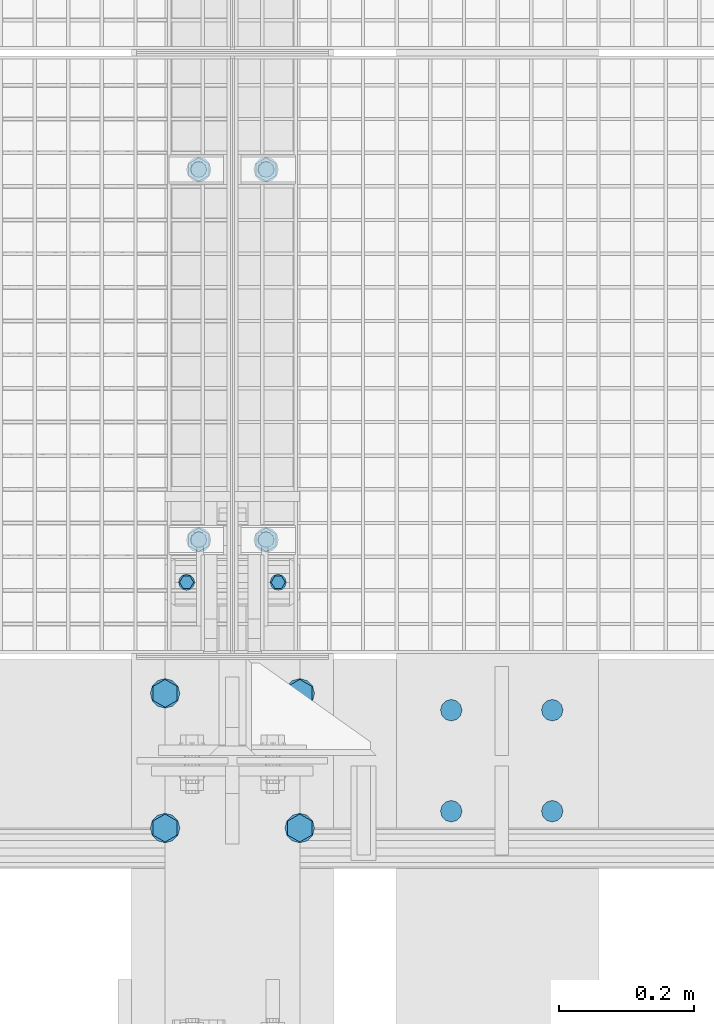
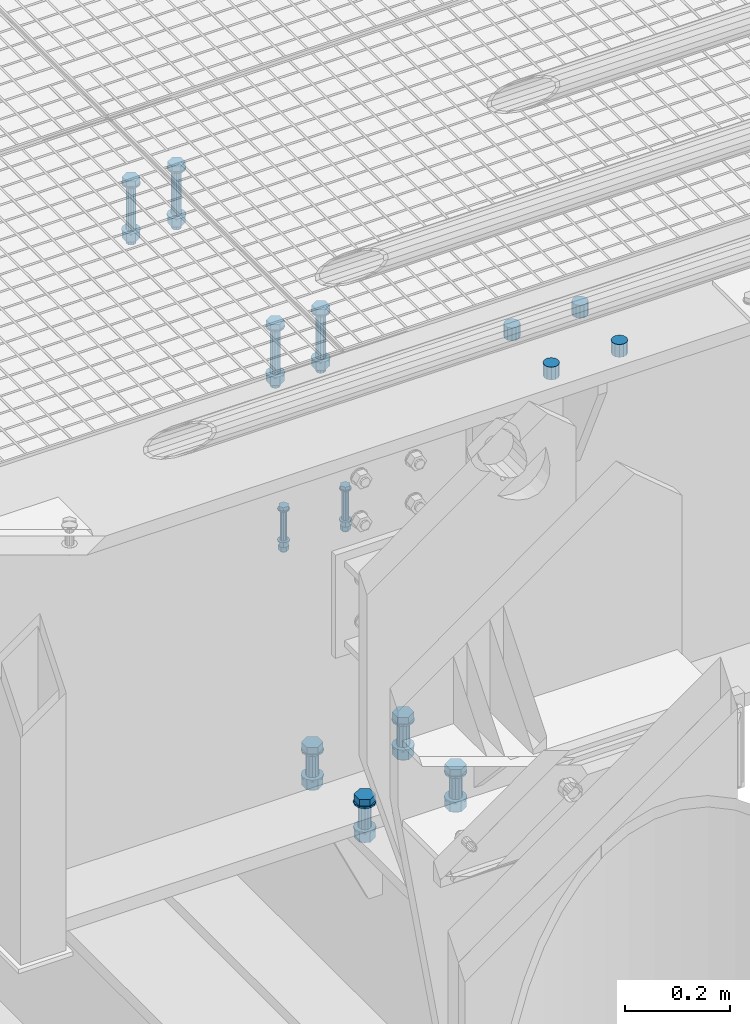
# One storey, part 22 of 1530: 5 mechanical fasteners.
"""IFC2X3 building model written with IfcOpenShell, lengths in millimetres."""

from ifc_helpers import new_model, si_unit, frame, origin_with_axes, place, context, subcontext, project, spatial, faceted_brep, source, transform, mapped, material, type_object, element, save


model = new_model("IFC2X3")

# Units and contexts
model_context = context("Model", 3, precision=1e-05, world=origin_with_axes())
body_context = subcontext(model_context, "Body", "Model", "MODEL_VIEW")
ifc_project = project(units=[si_unit("LENGTHUNIT", "METRE", prefix="MILLI"), si_unit("AREAUNIT", "SQUARE_METRE"), si_unit("VOLUMEUNIT", "CUBIC_METRE"), si_unit("MASSUNIT", "GRAM", prefix="KILO"), si_unit("TIMEUNIT", "SECOND"), si_unit("PLANEANGLEUNIT", "RADIAN"), si_unit("SOLIDANGLEUNIT", "STERADIAN"), si_unit("THERMODYNAMICTEMPERATUREUNIT", "DEGREE_CELSIUS"), si_unit("LUMINOUSINTENSITYUNIT", "LUMEN")], contexts=[model_context])

# Site, building, storey
site_placement = place(None, origin_with_axes())
site = spatial("IfcSite", under=ifc_project, at=site_placement, Name="Brattvåg", CompositionType="ELEMENT")
building_placement = place(site_placement, origin_with_axes())
building = spatial("IfcBuilding", under=site, at=building_placement, Name="Undefined", CompositionType="ELEMENT")
storey_placement = place(building_placement, origin_with_axes())
storey = spatial("IfcBuildingStorey", under=building, at=storey_placement, Name="Undefined", CompositionType="ELEMENT", Elevation=0.0)

# Mechanical fasteners
ifc_material = material(Name="8")
mechanical_fastener_type = type_object("IfcMechanicalFastenerType", Name="Bolt assembly")
shared_shape_1 = source(origin_with_axes(), body_context, "Body", "Brep", [
    faceted_brep([(10.3923048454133, -9.99999999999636, 0.0), (5.19615242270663, -9.99999999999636, 9.0), (-5.19615242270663, -9.99999999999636, 9.0), (-10.3923048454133, -9.99999999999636, 1.27269028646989e-15), (-5.19615242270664, -9.99999999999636, -9.0), (5.19615242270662, -9.99999999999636, -9.0), (5.19615242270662, -2.49999999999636, -9.0), (-5.19615242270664, -2.49999999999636, -9.0), (-10.3923048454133, -2.49999999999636, 1.27269028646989e-15), (-5.19615242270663, -2.49999999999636, 9.0), (5.19615242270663, -2.49999999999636, 9.0), (10.3923048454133, -2.49999999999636, 0.0), (6.0, -2.49999999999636, 0.0), (5.19615242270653, -2.49999999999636, 3.00000000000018), (2.99999999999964, -2.49999999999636, 5.19615242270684), (-6.21801588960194e-13, -2.49999999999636, 6.0), (-3.00000000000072, -2.49999999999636, 5.19615242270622), (-5.19615242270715, -2.49999999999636, 2.9999999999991), (-6.0, -2.49999999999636, -1.24360317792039e-12), (-5.19615242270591, -2.49999999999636, -3.00000000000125), (-2.99999999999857, -2.49999999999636, -5.19615242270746), (1.85874342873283e-12, -2.49999999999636, -6.0), (3.00000000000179, -2.49999999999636, -5.1961524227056), (5.19615242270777, -2.49999999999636, -2.99999999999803), (5.19615242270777, 97.4999999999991, -2.99999999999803), (3.00000000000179, 97.4999999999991, -5.1961524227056), (1.85874342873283e-12, 97.4999999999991, -6.0), (-2.99999999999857, 97.4999999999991, -5.19615242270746), (-5.19615242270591, 97.4999999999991, -3.00000000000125), (-6.0, 97.4999999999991, -1.24360317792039e-12), (-5.19615242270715, 97.4999999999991, 2.9999999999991), (-3.00000000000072, 97.4999999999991, 5.19615242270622), (-6.21801588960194e-13, 97.4999999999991, 6.0), (2.99999999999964, 97.4999999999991, 5.19615242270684), (5.19615242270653, 97.4999999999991, 3.00000000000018), (6.0, 97.4999999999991, 0.0), (12.0, -2.49999999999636, 0.0), (10.3923048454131, -2.49999999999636, 6.00000000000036), (5.99999999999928, -2.49999999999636, 10.3923048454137), (-1.24360317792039e-12, -2.49999999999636, 12.0), (-6.00000000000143, -2.49999999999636, 10.3923048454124), (-10.3923048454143, -2.49999999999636, 5.99999999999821), (-12.0, -2.49999999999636, -2.48720635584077e-12), (-10.3923048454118, -2.49999999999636, -6.00000000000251), (-5.99999999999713, -2.49999999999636, -10.3923048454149), (3.71748685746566e-12, -2.49999999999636, -12.0), (6.00000000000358, -2.49999999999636, -10.3923048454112), (10.3923048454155, -2.49999999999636, -5.99999999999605), (10.3923048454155, 3.63797880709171e-12, -5.99999999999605), (6.00000000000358, 3.63797880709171e-12, -10.3923048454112), (3.71748685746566e-12, 3.63797880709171e-12, -12.0), (-5.99999999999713, 3.63797880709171e-12, -10.3923048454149), (-10.3923048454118, 3.63797880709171e-12, -6.00000000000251), (-12.0, 3.63797880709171e-12, -2.48720635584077e-12), (-10.3923048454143, 3.63797880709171e-12, 5.99999999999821), (-6.00000000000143, 3.63797880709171e-12, 10.3923048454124), (-1.24360317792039e-12, 3.63797880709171e-12, 12.0), (5.99999999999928, 3.63797880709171e-12, 10.3923048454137), (10.3923048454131, 3.63797880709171e-12, 6.00000000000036), (12.0, 3.63797880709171e-12, 0.0), (12.0, 69.9999999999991, 0.0), (10.3923048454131, 69.9999999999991, 6.00000000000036), (5.99999999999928, 69.9999999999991, 10.3923048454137), (-1.24360317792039e-12, 69.9999999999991, 12.0), (-6.00000000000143, 69.9999999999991, 10.3923048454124), (-10.3923048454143, 69.9999999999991, 5.99999999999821), (-12.0, 69.9999999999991, -2.48720635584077e-12), (-10.3923048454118, 69.9999999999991, -6.00000000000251), (-5.99999999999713, 69.9999999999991, -10.3923048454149), (3.71748685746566e-12, 69.9999999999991, -12.0), (6.00000000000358, 69.9999999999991, -10.3923048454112), (10.3923048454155, 69.9999999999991, -5.99999999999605), (10.3923048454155, 72.4999999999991, -5.99999999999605), (6.00000000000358, 72.4999999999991, -10.3923048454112), (3.71748685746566e-12, 72.4999999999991, -12.0), (-5.99999999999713, 72.4999999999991, -10.3923048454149), (-10.3923048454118, 72.4999999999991, -6.00000000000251), (-12.0, 72.4999999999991, -2.48720635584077e-12), (-10.3923048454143, 72.4999999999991, 5.99999999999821), (-6.00000000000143, 72.4999999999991, 10.3923048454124), (-1.24360317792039e-12, 72.4999999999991, 12.0), (5.99999999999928, 72.4999999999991, 10.3923048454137), (10.3923048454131, 72.4999999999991, 6.00000000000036), (12.0, 72.4999999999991, 0.0), (10.3923048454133, 72.4999999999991, 0.0), (5.19615242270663, 72.4999999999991, 9.0), (-5.19615242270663, 72.4999999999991, 9.0), (-10.3923048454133, 72.4999999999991, 1.27269028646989e-15), (-5.19615242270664, 72.4999999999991, -9.0), (5.19615242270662, 72.4999999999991, -9.0), (5.19615242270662, 83.300000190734, -9.0), (-5.19615242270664, 83.300000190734, -9.0), (-10.3923048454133, 83.300000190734, 1.27269028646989e-15), (-5.19615242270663, 83.300000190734, 9.0), (5.19615242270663, 83.300000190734, 9.0), (10.3923048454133, 83.300000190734, 0.0), (9.0, 83.300000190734, 5.19615242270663), (6.36345143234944e-16, 83.300000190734, 10.3923048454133), (-9.0, 83.300000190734, 5.19615242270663), (-9.0, 83.300000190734, -5.19615242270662), (-1.11392563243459e-14, 83.300000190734, -10.3923048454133), (8.99999999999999, 83.300000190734, -5.19615242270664), (8.99999999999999, 94.1000003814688, -5.19615242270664), (-1.11392563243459e-14, 94.1000003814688, -10.3923048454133), (-9.0, 94.1000003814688, -5.19615242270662), (-9.0, 94.1000003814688, 5.19615242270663), (6.36345143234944e-16, 94.1000003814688, 10.3923048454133), (9.0, 94.1000003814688, 5.19615242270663)], [[[0, 1, 2, 3, 4, 5]], [[6, 7, 8, 9, 10, 11]], [[0, 11, 10, 1]], [[1, 10, 9, 2]], [[2, 9, 8, 3]], [[3, 8, 7, 4]], [[4, 7, 6, 5]], [[5, 6, 11, 0]], [[12, 13, 14, 15, 16, 17, 18, 19, 20, 21, 22, 23]], [[24, 25, 26, 27, 28, 29, 30, 31, 32, 33, 34, 35]], [[12, 35, 34, 13]], [[13, 34, 33, 14]], [[14, 33, 32, 15]], [[15, 32, 31, 16]], [[16, 31, 30, 17]], [[17, 30, 29, 18]], [[18, 29, 28, 19]], [[19, 28, 27, 20]], [[20, 27, 26, 21]], [[21, 26, 25, 22]], [[22, 25, 24, 23]], [[23, 24, 35, 12]], [[36, 37, 38, 39, 40, 41, 42, 43, 44, 45, 46, 47]], [[48, 49, 50, 51, 52, 53, 54, 55, 56, 57, 58, 59]], [[36, 59, 58, 37]], [[37, 58, 57, 38]], [[38, 57, 56, 39]], [[39, 56, 55, 40]], [[40, 55, 54, 41]], [[41, 54, 53, 42]], [[42, 53, 52, 43]], [[43, 52, 51, 44]], [[44, 51, 50, 45]], [[45, 50, 49, 46]], [[46, 49, 48, 47]], [[47, 48, 59, 36]], [[60, 61, 62, 63, 64, 65, 66, 67, 68, 69, 70, 71]], [[72, 73, 74, 75, 76, 77, 78, 79, 80, 81, 82, 83]], [[60, 83, 82, 61]], [[61, 82, 81, 62]], [[62, 81, 80, 63]], [[63, 80, 79, 64]], [[64, 79, 78, 65]], [[65, 78, 77, 66]], [[66, 77, 76, 67]], [[67, 76, 75, 68]], [[68, 75, 74, 69]], [[69, 74, 73, 70]], [[70, 73, 72, 71]], [[71, 72, 83, 60]], [[84, 85, 86, 87, 88, 89]], [[90, 91, 92, 93, 94, 95]], [[84, 95, 94, 85]], [[85, 94, 93, 86]], [[86, 93, 92, 87]], [[87, 92, 91, 88]], [[88, 91, 90, 89]], [[89, 90, 95, 84]], [[96, 97, 98, 99, 100, 101]], [[102, 103, 104, 105, 106, 107]], [[96, 107, 106, 97]], [[97, 106, 105, 98]], [[98, 105, 104, 99]], [[99, 104, 103, 100]], [[100, 103, 102, 101]], [[101, 102, 107, 96]]]),
    faceted_brep([(7.0, -9.09494701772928e-13, 0.0), (6.06217782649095, -9.09494701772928e-13, 3.50000000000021), (3.49999999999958, -9.09494701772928e-13, 6.06217782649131), (-7.25435187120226e-13, -9.09494701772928e-13, 7.0), (-3.50000000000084, -9.09494701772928e-13, 6.06217782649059), (-6.06217782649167, -9.09494701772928e-13, 3.49999999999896), (-7.0, -9.09494701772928e-13, -1.45087037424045e-12), (-6.06217782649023, -9.09494701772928e-13, -3.50000000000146), (-3.49999999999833, -9.09494701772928e-13, -6.06217782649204), (2.1685340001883e-12, -9.09494701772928e-13, -7.0), (3.50000000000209, -9.09494701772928e-13, -6.06217782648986), (6.0621778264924, -9.09494701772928e-13, -3.4999999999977), (6.0621778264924, 70.0999999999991, -3.4999999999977), (3.50000000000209, 70.0999999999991, -6.06217782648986), (2.1685340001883e-12, 70.0999999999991, -7.0), (-3.49999999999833, 70.0999999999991, -6.06217782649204), (-6.06217782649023, 70.0999999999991, -3.50000000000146), (-7.0, 70.0999999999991, -1.45087037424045e-12), (-6.06217782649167, 70.0999999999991, 3.49999999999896), (-3.50000000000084, 70.0999999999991, 6.06217782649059), (-7.25435187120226e-13, 70.0999999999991, 7.0), (3.49999999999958, 70.0999999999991, 6.06217782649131), (6.06217782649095, 70.0999999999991, 3.50000000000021), (7.0, 70.0999999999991, 0.0)], [[[0, 1, 2, 3, 4, 5, 6, 7, 8, 9, 10, 11]], [[12, 13, 14, 15, 16, 17, 18, 19, 20, 21, 22, 23]], [[0, 23, 22, 1]], [[1, 22, 21, 2]], [[2, 21, 20, 3]], [[3, 20, 19, 4]], [[4, 19, 18, 5]], [[5, 18, 17, 6]], [[6, 17, 16, 7]], [[7, 16, 15, 8]], [[8, 15, 14, 9]], [[9, 14, 13, 10]], [[10, 13, 12, 11]], [[11, 12, 23, 0]]]),
])
mechanical_fastener_1_placement = place(storey_placement, frame((12317.9488714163, 264.999999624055, -410.000000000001), z_axis=(0.0, -1.0, 0.0), x_axis=(-1.0, 1.99999855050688e-09, 0.0)))
element("IfcMechanicalFastener", 1, at=mechanical_fastener_1_placement, inside=storey, type_object=mechanical_fastener_type, material=ifc_material, Name="Bolt assembly", NominalDiameter=12.0, NominalLength=100.0, context=body_context, shape_type="MappedRepresentation", body=[
    mapped(shared_shape_1, transform((0.0, 0.0, 0.0))),
    mapped(shared_shape_1, transform((136.0, 0.0, 0.0))),
])
shared_shape_2 = source(origin_with_axes(), body_context, "Body", "Brep", [
    faceted_brep([(17.3205080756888, -10.5, 0.0), (8.66025403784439, -10.5, 15.0), (-8.66025403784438, -10.5, 15.0), (-17.3205080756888, -10.5, 2.12115047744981e-15), (-8.66025403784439, -10.5, -15.0), (8.66025403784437, -10.5, -15.0), (8.66025403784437, 2.0, -15.0), (-8.66025403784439, 2.0, -15.0), (-17.3205080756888, 2.0, 2.12115047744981e-15), (-8.66025403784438, 2.0, 15.0), (8.66025403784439, 2.0, 15.0), (17.3205080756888, 2.0, 0.0), (10.0, 2.0, 0.0), (8.66025403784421, 2.0, 5.0000000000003), (4.9999999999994, 2.0, 8.66025403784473), (-1.03633598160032e-12, 2.0, 10.0), (-5.00000000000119, 2.0, 8.6602540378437), (-8.66025403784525, 2.0, 4.99999999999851), (-10.0, 2.0, -2.07267196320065e-12), (-8.66025403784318, 2.0, -5.00000000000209), (-4.99999999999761, 2.0, -8.66025403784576), (3.09790571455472e-12, 2.0, -10.0), (5.00000000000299, 2.0, -8.66025403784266), (8.66025403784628, 2.0, -4.99999999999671), (8.66025403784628, 142.0, -4.99999999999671), (5.00000000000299, 142.0, -8.66025403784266), (3.09790571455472e-12, 142.0, -10.0), (-4.99999999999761, 142.0, -8.66025403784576), (-8.66025403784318, 142.0, -5.00000000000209), (-10.0, 142.0, -2.07267196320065e-12), (-8.66025403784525, 142.0, 4.99999999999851), (-5.00000000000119, 142.0, 8.6602540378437), (-1.03633598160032e-12, 142.0, 10.0), (4.9999999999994, 142.0, 8.66025403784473), (8.66025403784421, 142.0, 5.0000000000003), (10.0, 142.0, 0.0), (18.5, 2.0, 0.0), (16.0214699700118, 2.0, 9.25000000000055), (9.2499999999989, 2.0, 16.0214699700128), (-1.9172215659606e-12, 2.0, 18.5), (-9.25000000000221, 2.0, 16.0214699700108), (-16.0214699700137, 2.0, 9.24999999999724), (-18.5, 2.0, -3.83444313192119e-12), (-16.0214699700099, 2.0, -9.25000000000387), (-9.24999999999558, 2.0, -16.0214699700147), (5.73112557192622e-12, 2.0, -18.5), (9.25000000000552, 2.0, -16.0214699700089), (16.0214699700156, 2.0, -9.24999999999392), (16.0214699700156, 5.0, -9.24999999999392), (9.25000000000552, 5.0, -16.0214699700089), (5.73112557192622e-12, 5.0, -18.5), (-9.24999999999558, 5.0, -16.0214699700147), (-16.0214699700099, 5.0, -9.25000000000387), (-18.5, 5.0, -3.83444313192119e-12), (-16.0214699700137, 5.0, 9.24999999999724), (-9.25000000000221, 5.0, 16.0214699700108), (-1.9172215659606e-12, 5.0, 18.5), (9.2499999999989, 5.0, 16.0214699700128), (16.0214699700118, 5.0, 9.25000000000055), (18.5, 5.0, 0.0), (18.5, 109.998931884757, 0.0), (16.0214699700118, 109.998931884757, 9.25000000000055), (9.2499999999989, 109.998931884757, 16.0214699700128), (-1.9172215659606e-12, 109.998931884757, 18.5), (-9.25000000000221, 109.998931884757, 16.0214699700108), (-16.0214699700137, 109.998931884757, 9.24999999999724), (-18.5, 109.998931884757, -3.83444313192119e-12), (-16.0214699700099, 109.998931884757, -9.25000000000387), (-9.24999999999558, 109.998931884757, -16.0214699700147), (5.73112557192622e-12, 109.998931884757, -18.5), (9.25000000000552, 109.998931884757, -16.0214699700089), (16.0214699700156, 109.998931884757, -9.24999999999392), (16.0214699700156, 112.998931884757, -9.24999999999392), (9.25000000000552, 112.998931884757, -16.0214699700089), (5.73112557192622e-12, 112.998931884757, -18.5), (-9.24999999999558, 112.998931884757, -16.0214699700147), (-16.0214699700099, 112.998931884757, -9.25000000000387), (-18.5, 112.998931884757, -3.83444313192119e-12), (-16.0214699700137, 112.998931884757, 9.24999999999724), (-9.25000000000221, 112.998931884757, 16.0214699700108), (-1.9172215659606e-12, 112.998931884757, 18.5), (9.2499999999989, 112.998931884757, 16.0214699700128), (16.0214699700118, 112.998931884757, 9.25000000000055), (18.5, 112.998931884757, 0.0), (17.3205080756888, 112.998931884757, 0.0), (8.66025403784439, 112.998931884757, 15.0), (-8.66025403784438, 112.998931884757, 15.0), (-17.3205080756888, 112.998931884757, 2.12115047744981e-15), (-8.66025403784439, 112.998931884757, -15.0), (8.66025403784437, 112.998931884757, -15.0), (8.66025403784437, 130.998931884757, -15.0), (-8.66025403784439, 130.998931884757, -15.0), (-17.3205080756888, 130.998931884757, 2.12115047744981e-15), (-8.66025403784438, 130.998931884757, 15.0), (8.66025403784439, 130.998931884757, 15.0), (17.3205080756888, 130.998931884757, 0.0)], [[[0, 1, 2, 3, 4, 5]], [[6, 7, 8, 9, 10, 11]], [[0, 11, 10, 1]], [[1, 10, 9, 2]], [[2, 9, 8, 3]], [[3, 8, 7, 4]], [[4, 7, 6, 5]], [[5, 6, 11, 0]], [[12, 13, 14, 15, 16, 17, 18, 19, 20, 21, 22, 23]], [[24, 25, 26, 27, 28, 29, 30, 31, 32, 33, 34, 35]], [[12, 35, 34, 13]], [[13, 34, 33, 14]], [[14, 33, 32, 15]], [[15, 32, 31, 16]], [[16, 31, 30, 17]], [[17, 30, 29, 18]], [[18, 29, 28, 19]], [[19, 28, 27, 20]], [[20, 27, 26, 21]], [[21, 26, 25, 22]], [[22, 25, 24, 23]], [[23, 24, 35, 12]], [[36, 37, 38, 39, 40, 41, 42, 43, 44, 45, 46, 47]], [[48, 49, 50, 51, 52, 53, 54, 55, 56, 57, 58, 59]], [[36, 59, 58, 37]], [[37, 58, 57, 38]], [[38, 57, 56, 39]], [[39, 56, 55, 40]], [[40, 55, 54, 41]], [[41, 54, 53, 42]], [[42, 53, 52, 43]], [[43, 52, 51, 44]], [[44, 51, 50, 45]], [[45, 50, 49, 46]], [[46, 49, 48, 47]], [[47, 48, 59, 36]], [[60, 61, 62, 63, 64, 65, 66, 67, 68, 69, 70, 71]], [[72, 73, 74, 75, 76, 77, 78, 79, 80, 81, 82, 83]], [[60, 83, 82, 61]], [[61, 82, 81, 62]], [[62, 81, 80, 63]], [[63, 80, 79, 64]], [[64, 79, 78, 65]], [[65, 78, 77, 66]], [[66, 77, 76, 67]], [[67, 76, 75, 68]], [[68, 75, 74, 69]], [[69, 74, 73, 70]], [[70, 73, 72, 71]], [[71, 72, 83, 60]], [[84, 85, 86, 87, 88, 89]], [[90, 91, 92, 93, 94, 95]], [[84, 95, 94, 85]], [[85, 94, 93, 86]], [[86, 93, 92, 87]], [[87, 92, 91, 88]], [[88, 91, 90, 89]], [[89, 90, 95, 84]]]),
])
for number, where, z_axis, x_axis, name in (
    (2, (12300.0047793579, 327.919311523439, -25.0), (-1.0, 1.99999855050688e-09, 0.0), (0.0, 1.0, 0.0), "Bolt assembly"),
    (3, (12200.0148773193, 327.920486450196, -25.0), (-1.0, 1.99999855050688e-09, 0.0), (0.0, 1.0, 0.0), "Bolt assembly"),
):
    element("IfcMechanicalFastener", number, at=place(storey_placement, frame(where, z_axis=z_axis, x_axis=x_axis)), inside=storey, type_object=mechanical_fastener_type, material=ifc_material, Name=name, NominalDiameter=20.0, NominalLength=140.0, context=body_context, shape_type="MappedRepresentation", body=[
        mapped(shared_shape_2, transform((0.0, 0.0, 0.0))),
        mapped(shared_shape_2, transform((549.999999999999, 0.0, 0.0))),
    ])
shared_shape_3 = source(origin_with_axes(), body_context, "Body", "Brep", [
    faceted_brep([(16.0, 0.0, 0.0), (13.8564064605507, 0.0, 8.00000000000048), (7.99999999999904, 0.0, 13.8564064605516), (-1.65813757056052e-12, 0.0, 16.0), (-8.00000000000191, 0.0, 13.8564064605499), (-13.8564064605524, 0.0, 7.99999999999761), (-16.0, 0.0, -3.31627514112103e-12), (-13.8564064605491, 0.0, -8.00000000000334), (-7.99999999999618, 0.0, -13.8564064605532), (4.95664914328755e-12, 0.0, -16.0), (8.00000000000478, 0.0, -13.8564064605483), (13.8564064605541, 0.0, -7.99999999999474), (13.8564064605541, 30.1, -7.99999999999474), (8.00000000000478, 30.1, -13.8564064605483), (4.95664914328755e-12, 30.1, -16.0), (-7.99999999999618, 30.1, -13.8564064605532), (-13.8564064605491, 30.1, -8.00000000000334), (-16.0, 30.1, -3.31627514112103e-12), (-13.8564064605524, 30.1, 7.99999999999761), (-8.00000000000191, 30.1, 13.8564064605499), (-1.65813757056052e-12, 30.1, 16.0), (7.99999999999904, 30.1, 13.8564064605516), (13.8564064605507, 30.1, 8.00000000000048), (16.0, 30.1, 0.0)], [[[0, 1, 2, 3, 4, 5, 6, 7, 8, 9, 10, 11]], [[12, 13, 14, 15, 16, 17, 18, 19, 20, 21, 22, 23]], [[0, 23, 22, 1]], [[1, 22, 21, 2]], [[2, 21, 20, 3]], [[3, 20, 19, 4]], [[4, 19, 18, 5]], [[5, 18, 17, 6]], [[6, 17, 16, 7]], [[7, 16, 15, 8]], [[8, 15, 14, 9]], [[9, 14, 13, 10]], [[10, 13, 12, 11]], [[11, 12, 23, 0]]]),
])
mechanical_fastener_2_placement = place(storey_placement, frame((12725.0, 0.0, 0.0), z_axis=(0.0, -1.0, 0.0), x_axis=(-1.0, 1.99999855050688e-09, 0.0)))
element("IfcMechanicalFastener", 4, at=mechanical_fastener_2_placement, inside=storey, type_object=mechanical_fastener_type, material=ifc_material, Name="Bolt assembly", NominalDiameter=30.0, NominalLength=30.0, context=body_context, shape_type="MappedRepresentation", body=[
    mapped(shared_shape_3, transform((0.0, 0.0, -75.0))),
    mapped(shared_shape_3, transform((150.0, 0.0, -75.0))),
    mapped(shared_shape_3, transform((0.0, 0.0, 75.0))),
    mapped(shared_shape_3, transform((150.0, 0.0, 75.0))),
])
shared_shape_4 = source(origin_with_axes(), body_context, "Body", "Brep", [
    faceted_brep([(20.7846096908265, -19.0, 0.0), (10.3923048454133, -19.0, 18.0), (-10.3923048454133, -19.0, 18.0), (-20.7846096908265, -19.0, 2.54538057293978e-15), (-10.3923048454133, -19.0, -18.0), (10.3923048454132, -19.0, -18.0), (10.3923048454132, -4.0, -18.0), (-10.3923048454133, -4.0, -18.0), (-20.7846096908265, -4.0, 2.54538057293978e-15), (-10.3923048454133, -4.0, 18.0), (10.3923048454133, -4.0, 18.0), (20.7846096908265, -4.0, 0.0), (12.0, -4.0, 0.0), (10.3923048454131, -4.0, 6.00000000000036), (5.99999999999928, -4.0, 10.3923048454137), (-1.24360317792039e-12, -4.0, 12.0), (-6.00000000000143, -4.0, 10.3923048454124), (-10.3923048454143, -4.0, 5.99999999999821), (-12.0, -4.0, -2.48720635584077e-12), (-10.3923048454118, -4.0, -6.00000000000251), (-5.99999999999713, -4.0, -10.3923048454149), (3.71748685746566e-12, -4.0, -12.0), (6.00000000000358, -4.0, -10.3923048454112), (10.3923048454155, -4.0, -5.99999999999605), (10.3923048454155, 86.0, -5.99999999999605), (6.00000000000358, 86.0, -10.3923048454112), (3.71748685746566e-12, 86.0, -12.0), (-5.99999999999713, 86.0, -10.3923048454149), (-10.3923048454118, 86.0, -6.00000000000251), (-12.0, 86.0, -2.48720635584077e-12), (-10.3923048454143, 86.0, 5.99999999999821), (-6.00000000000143, 86.0, 10.3923048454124), (-1.24360317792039e-12, 86.0, 12.0), (5.99999999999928, 86.0, 10.3923048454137), (10.3923048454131, 86.0, 6.00000000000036), (12.0, 86.0, 0.0), (22.0, -4.0, 0.0), (19.0525588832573, -4.0, 11.0000000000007), (10.9999999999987, -4.0, 19.0525588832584), (-2.27993915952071e-12, -4.0, 22.0), (-11.0000000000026, -4.0, 19.0525588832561), (-19.0525588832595, -4.0, 10.9999999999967), (-22.0, -4.0, -4.55987831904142e-12), (-19.052558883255, -4.0, -11.0000000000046), (-10.9999999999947, -4.0, -19.0525588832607), (6.81539257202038e-12, -4.0, -22.0), (11.0000000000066, -4.0, -19.0525588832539), (19.0525588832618, -4.0, -10.9999999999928), (19.0525588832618, 0.0, -10.9999999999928), (11.0000000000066, 0.0, -19.0525588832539), (6.81539257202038e-12, 0.0, -22.0), (-10.9999999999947, 0.0, -19.0525588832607), (-19.052558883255, 0.0, -11.0000000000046), (-22.0, 0.0, -4.55987831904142e-12), (-19.0525588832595, 0.0, 10.9999999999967), (-11.0000000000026, 0.0, 19.0525588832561), (-2.27993915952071e-12, 0.0, 22.0), (10.9999999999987, 0.0, 19.0525588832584), (19.0525588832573, 0.0, 11.0000000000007), (22.0, 0.0, 0.0), (22.0, 54.9998779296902, 0.0), (19.0525588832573, 54.9998779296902, 11.0000000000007), (10.9999999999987, 54.9998779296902, 19.0525588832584), (-2.27993915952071e-12, 54.9998779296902, 22.0), (-11.0000000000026, 54.9998779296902, 19.0525588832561), (-19.0525588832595, 54.9998779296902, 10.9999999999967), (-22.0, 54.9998779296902, -4.55987831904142e-12), (-19.052558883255, 54.9998779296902, -11.0000000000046), (-10.9999999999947, 54.9998779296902, -19.0525588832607), (6.81539257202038e-12, 54.9998779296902, -22.0), (11.0000000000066, 54.9998779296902, -19.0525588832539), (19.0525588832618, 54.9998779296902, -10.9999999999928), (19.0525588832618, 58.9998779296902, -10.9999999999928), (11.0000000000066, 58.9998779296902, -19.0525588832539), (6.81539257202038e-12, 58.9998779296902, -22.0), (-10.9999999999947, 58.9998779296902, -19.0525588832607), (-19.052558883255, 58.9998779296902, -11.0000000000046), (-22.0, 58.9998779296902, -4.55987831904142e-12), (-19.0525588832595, 58.9998779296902, 10.9999999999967), (-11.0000000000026, 58.9998779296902, 19.0525588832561), (-2.27993915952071e-12, 58.9998779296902, 22.0), (10.9999999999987, 58.9998779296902, 19.0525588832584), (19.0525588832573, 58.9998779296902, 11.0000000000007), (22.0, 58.9998779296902, 0.0), (20.7846096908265, 58.9998779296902, 0.0), (10.3923048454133, 58.9998779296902, 18.0), (-10.3923048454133, 58.9998779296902, 18.0), (-20.7846096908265, 58.9998779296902, 2.54538057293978e-15), (-10.3923048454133, 58.9998779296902, -18.0), (10.3923048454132, 58.9998779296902, -18.0), (10.3923048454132, 80.4998779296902, -18.0), (-10.3923048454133, 80.4998779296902, -18.0), (-20.7846096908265, 80.4998779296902, 2.54538057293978e-15), (-10.3923048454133, 80.4998779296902, 18.0), (10.3923048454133, 80.4998779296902, 18.0), (20.7846096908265, 80.4998779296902, 0.0)], [[[0, 1, 2, 3, 4, 5]], [[6, 7, 8, 9, 10, 11]], [[0, 11, 10, 1]], [[1, 10, 9, 2]], [[2, 9, 8, 3]], [[3, 8, 7, 4]], [[4, 7, 6, 5]], [[5, 6, 11, 0]], [[12, 13, 14, 15, 16, 17, 18, 19, 20, 21, 22, 23]], [[24, 25, 26, 27, 28, 29, 30, 31, 32, 33, 34, 35]], [[12, 35, 34, 13]], [[13, 34, 33, 14]], [[14, 33, 32, 15]], [[15, 32, 31, 16]], [[16, 31, 30, 17]], [[17, 30, 29, 18]], [[18, 29, 28, 19]], [[19, 28, 27, 20]], [[20, 27, 26, 21]], [[21, 26, 25, 22]], [[22, 25, 24, 23]], [[23, 24, 35, 12]], [[36, 37, 38, 39, 40, 41, 42, 43, 44, 45, 46, 47]], [[48, 49, 50, 51, 52, 53, 54, 55, 56, 57, 58, 59]], [[36, 59, 58, 37]], [[37, 58, 57, 38]], [[38, 57, 56, 39]], [[39, 56, 55, 40]], [[40, 55, 54, 41]], [[41, 54, 53, 42]], [[42, 53, 52, 43]], [[43, 52, 51, 44]], [[44, 51, 50, 45]], [[45, 50, 49, 46]], [[46, 49, 48, 47]], [[47, 48, 59, 36]], [[60, 61, 62, 63, 64, 65, 66, 67, 68, 69, 70, 71]], [[72, 73, 74, 75, 76, 77, 78, 79, 80, 81, 82, 83]], [[60, 83, 82, 61]], [[61, 82, 81, 62]], [[62, 81, 80, 63]], [[63, 80, 79, 64]], [[64, 79, 78, 65]], [[65, 78, 77, 66]], [[66, 77, 76, 67]], [[67, 76, 75, 68]], [[68, 75, 74, 69]], [[69, 74, 73, 70]], [[70, 73, 72, 71]], [[71, 72, 83, 60]], [[84, 85, 86, 87, 88, 89]], [[90, 91, 92, 93, 94, 95]], [[84, 95, 94, 85]], [[85, 94, 93, 86]], [[86, 93, 92, 87]], [[87, 92, 91, 88]], [[88, 91, 90, 89]], [[89, 90, 95, 84]]]),
    faceted_brep([(13.0, 0.0999999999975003, 0.0), (11.2583302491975, 0.0999999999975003, 6.50000000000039), (6.49999999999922, 0.0999999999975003, 11.2583302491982), (-1.34723677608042e-12, 0.0999999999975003, 13.0), (-6.50000000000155, 0.0999999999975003, 11.2583302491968), (-11.2583302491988, 0.0999999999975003, 6.49999999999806), (-13.0, 0.0999999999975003, -2.69447355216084e-12), (-11.2583302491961, 0.0999999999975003, -6.50000000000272), (-6.4999999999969, 0.0999999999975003, -11.2583302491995), (4.02727742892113e-12, 0.0999999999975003, -13.0), (6.50000000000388, 0.0999999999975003, -11.2583302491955), (11.2583302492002, 0.0999999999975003, -6.49999999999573), (11.2583302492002, 30.1, -6.49999999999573), (6.50000000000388, 30.1, -11.2583302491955), (4.02727742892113e-12, 30.1, -13.0), (-6.4999999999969, 30.1, -11.2583302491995), (-11.2583302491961, 30.1, -6.50000000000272), (-13.0, 30.1, -2.69447355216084e-12), (-11.2583302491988, 30.1, 6.49999999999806), (-6.50000000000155, 30.1, 11.2583302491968), (-1.34723677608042e-12, 30.1, 13.0), (6.49999999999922, 30.1, 11.2583302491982), (11.2583302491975, 30.1, 6.50000000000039), (13.0, 30.1, 0.0), (13.0, 29.8998779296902, 0.0), (11.2583302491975, 29.8998779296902, 6.50000000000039), (6.49999999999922, 29.8998779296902, 11.2583302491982), (-1.34723677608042e-12, 29.8998779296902, 13.0), (-6.50000000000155, 29.8998779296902, 11.2583302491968), (-11.2583302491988, 29.8998779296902, 6.49999999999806), (-13.0, 29.8998779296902, -2.69447355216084e-12), (-11.2583302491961, 29.8998779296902, -6.50000000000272), (-6.4999999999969, 29.8998779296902, -11.2583302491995), (4.02727742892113e-12, 29.8998779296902, -13.0), (6.50000000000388, 29.8998779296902, -11.2583302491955), (11.2583302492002, 29.8998779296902, -6.49999999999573), (11.2583302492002, 54.9998779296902, -6.49999999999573), (6.50000000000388, 54.9998779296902, -11.2583302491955), (4.02727742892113e-12, 54.9998779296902, -13.0), (-6.4999999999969, 54.9998779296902, -11.2583302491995), (-11.2583302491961, 54.9998779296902, -6.50000000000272), (-13.0, 54.9998779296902, -2.69447355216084e-12), (-11.2583302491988, 54.9998779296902, 6.49999999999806), (-6.50000000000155, 54.9998779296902, 11.2583302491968), (-1.34723677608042e-12, 54.9998779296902, 13.0), (6.49999999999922, 54.9998779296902, 11.2583302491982), (11.2583302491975, 54.9998779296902, 6.50000000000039), (13.0, 54.9998779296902, 0.0)], [[[0, 1, 2, 3, 4, 5, 6, 7, 8, 9, 10, 11]], [[12, 13, 14, 15, 16, 17, 18, 19, 20, 21, 22, 23]], [[0, 23, 22, 1]], [[1, 22, 21, 2]], [[2, 21, 20, 3]], [[3, 20, 19, 4]], [[4, 19, 18, 5]], [[5, 18, 17, 6]], [[6, 17, 16, 7]], [[7, 16, 15, 8]], [[8, 15, 14, 9]], [[9, 14, 13, 10]], [[10, 13, 12, 11]], [[11, 12, 23, 0]], [[24, 25, 26, 27, 28, 29, 30, 31, 32, 33, 34, 35]], [[36, 37, 38, 39, 40, 41, 42, 43, 44, 45, 46, 47]], [[24, 47, 46, 25]], [[25, 46, 45, 26]], [[26, 45, 44, 27]], [[27, 44, 43, 28]], [[28, 43, 42, 29]], [[29, 42, 41, 30]], [[30, 41, 40, 31]], [[31, 40, 39, 32]], [[32, 39, 38, 33]], [[33, 38, 37, 34]], [[34, 37, 36, 35]], [[35, 36, 47, 24]]]),
])
mechanical_fastener_3_placement = place(storey_placement, frame((12250.0000839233, 100.0, -860.0), z_axis=(1.0, 0.0, 0.0), x_axis=(0.0, -1.0, 0.0)))
element("IfcMechanicalFastener", 5, at=mechanical_fastener_3_placement, inside=storey, type_object=mechanical_fastener_type, material=ifc_material, Name="Bolt assembly", NominalDiameter=24.0, NominalLength=90.0, context=body_context, shape_type="MappedRepresentation", body=[
    mapped(shared_shape_4, transform((0.0, 0.0, -100.0))),
    mapped(shared_shape_4, transform((200.0, 0.0, -100.0))),
    mapped(shared_shape_4, transform((0.0, 0.0, 100.0))),
    mapped(shared_shape_4, transform((200.0, 0.0, 100.0))),
])

save(model, "model.ifc")
